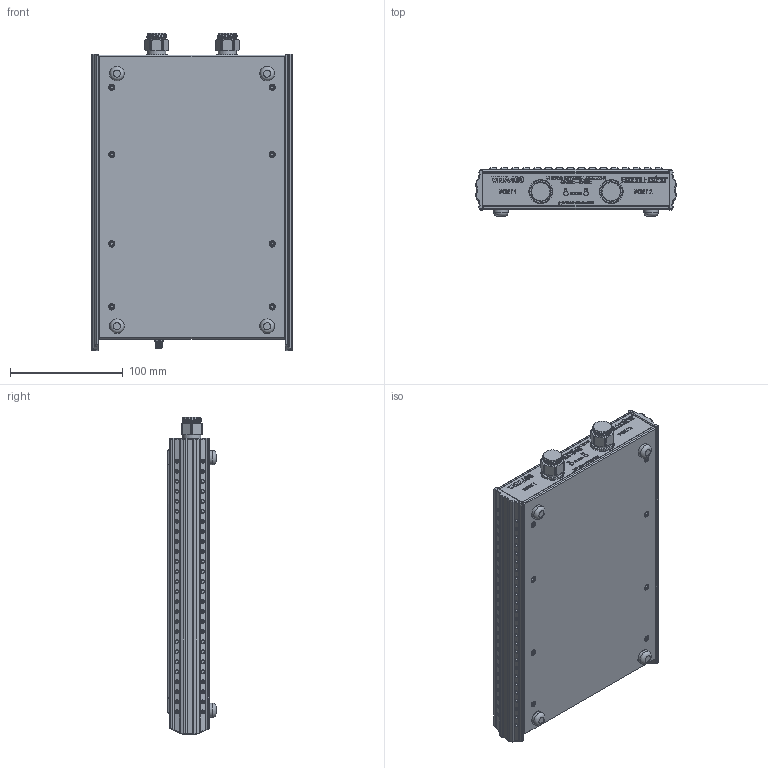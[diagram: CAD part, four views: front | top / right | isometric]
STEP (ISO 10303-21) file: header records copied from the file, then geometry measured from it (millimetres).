
FILE_DESCRIPTION (( 'STEP AP214' ), '1' );
FILE_NAME ('VNA RAILS STANDARD.STEP', '2025-07-09T22:48:40', ( '' ), ( '' ), 'SwSTEP 2.0', 'SolidWorks 2024', '' );
FILE_SCHEMA (( 'AUTOMOTIVE_DESIGN' ));
Products named in the file (1): VNA RAILS STANDARD
Bounding box: 178.09 x 42.67 x 281.41 mm (x, y, z)
Volume: 1578973.9 mm3; surface area: 165459.6 mm2
Topology: 1 solids, 3 shells, 4737 faces, 12949 edges, 8510 vertices
Faces by surface type: plane 2676, cylinder 1114, bspline 579, cone 308, torus 60
Full cylindrical faces by diameter (mm): 1.27 x1, 2.286 x2, 3.81 x4, 5.385 x1, 5.558 x8, 10.922 x1, 12.7 x4, 12.954 x4, 16 x6, 19.05 x2, 21.082 x2
Entity records: 200958 total; most frequent: CARTESIAN_POINT 90511, ORIENTED_EDGE 24728, DIRECTION 19334, EDGE_CURVE 12364, VERTEX_POINT 8341, VECTOR 7410, LINE 7410, AXIS2_PLACEMENT_3D 5962
